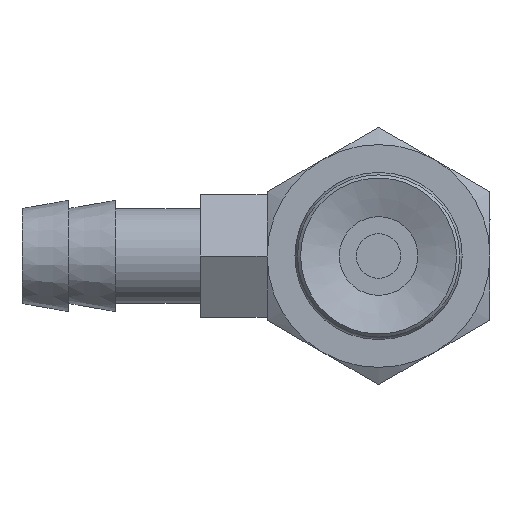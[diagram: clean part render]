
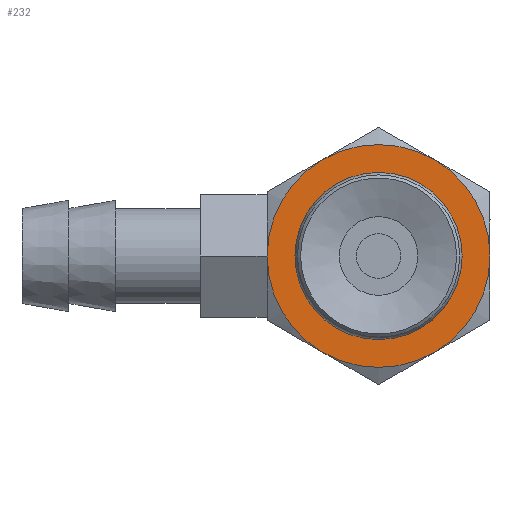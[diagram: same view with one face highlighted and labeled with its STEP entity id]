
A CAD part, front view. The second image highlights one B-rep face of the part: STEP entity #232.
In plain terms, the highlighted planar face has unit normal (0, -1, 0).
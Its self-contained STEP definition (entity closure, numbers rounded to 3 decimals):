
#232=ADVANCED_FACE('',(#340,#341),#342,.F.);
#340=FACE_OUTER_BOUND('',#552,.T.);
#341=FACE_BOUND('',#553,.T.);
#342=PLANE('',#554);
#552=EDGE_LOOP('',(#860));
#553=EDGE_LOOP('',(#861));
#554=AXIS2_PLACEMENT_3D('',#862,#863,#864);
#860=ORIENTED_EDGE('',*,*,#1251,.T.);
#861=ORIENTED_EDGE('',*,*,#1252,.F.);
#862=CARTESIAN_POINT('',(5.0,0.0,0.0));
#863=DIRECTION('',(-0.0,1.0,0.0));
#864=DIRECTION('',(1.0,0.0,0.0));
#1251=EDGE_CURVE('',#1416,#1416,#1417,.T.);
#1252=EDGE_CURVE('',#1418,#1418,#1419,.T.);
#1416=VERTEX_POINT('',#1914);
#1417=CIRCLE('',#1915,5.0);
#1418=VERTEX_POINT('',#1916);
#1419=CIRCLE('',#1917,2.0);
#1914=CARTESIAN_POINT('',(0.0,0.0,-5.0));
#1915=AXIS2_PLACEMENT_3D('',#2087,#2088,#2089);
#1916=CARTESIAN_POINT('',(0.0,0.0,-2.0));
#1917=AXIS2_PLACEMENT_3D('',#2090,#2091,#2092);
#2087=CARTESIAN_POINT('',(0.0,0.0,0.0));
#2088=DIRECTION('',(0.0,-1.0,0.0));
#2089=DIRECTION('',(0.0,0.0,-1.0));
#2090=CARTESIAN_POINT('',(0.0,0.0,0.0));
#2091=DIRECTION('',(0.0,-1.0,0.0));
#2092=DIRECTION('',(0.0,0.0,-1.0));
